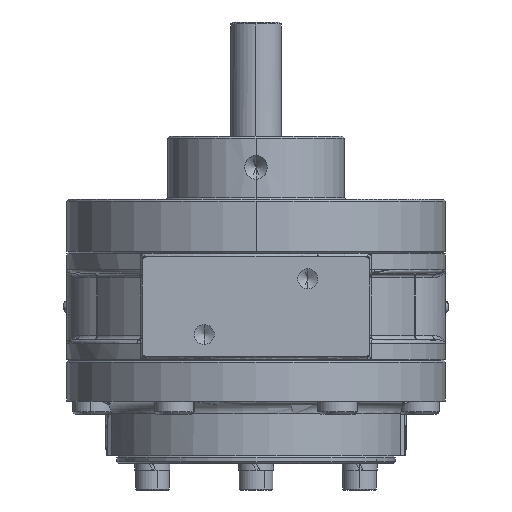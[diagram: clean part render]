
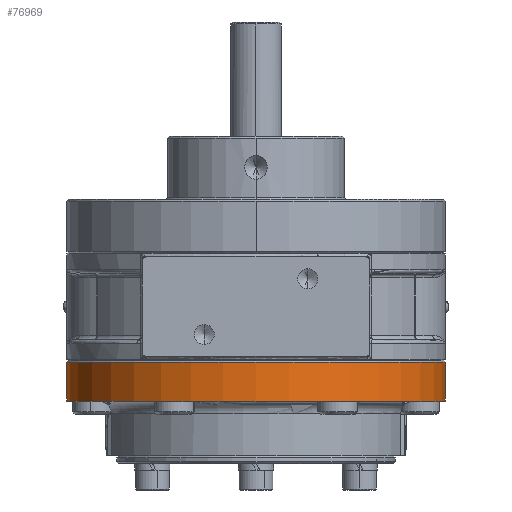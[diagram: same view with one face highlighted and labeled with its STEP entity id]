
A CAD part, front view. The second image highlights one B-rep face of the part: STEP entity #76969.
In plain terms, the highlighted cylindrical face has radius 47.5 mm (diameter 95 mm), a partial arc.
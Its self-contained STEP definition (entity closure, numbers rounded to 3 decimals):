
#5019 = CIRCLE ( 'NONE', #63239, 47.5 ) ;
#6207 = CARTESIAN_POINT ( 'NONE',  ( 47.5, 0., -37.406 ) ) ;
#7823 = EDGE_LOOP ( 'NONE', ( #31017, #41367, #77429, #85804 ) ) ;
#9371 = DIRECTION ( 'NONE',  ( 0., 0., -1. ) ) ;
#13593 = AXIS2_PLACEMENT_3D ( 'NONE', #87724, #62127, #69273 ) ;
#16354 = CARTESIAN_POINT ( 'NONE',  ( 47.5, 0., -13.905 ) ) ;
#17031 = EDGE_CURVE ( 'NONE', #44439, #28057, #33298, .T. ) ;
#19972 = DIRECTION ( 'NONE',  ( 0., 0., 1. ) ) ;
#21277 = CYLINDRICAL_SURFACE ( 'NONE', #13593, 47.5 ) ;
#22277 = DIRECTION ( 'NONE',  ( -1., 0., 0. ) ) ;
#24311 = VERTEX_POINT ( 'NONE', #81324 ) ;
#26750 = CARTESIAN_POINT ( 'NONE',  ( -47.5, 0., -37.406 ) ) ;
#28057 = VERTEX_POINT ( 'NONE', #16354 ) ;
#30499 = LINE ( 'NONE', #26750, #79640 ) ;
#31017 = ORIENTED_EDGE ( 'NONE', *, *, #87444, .F. ) ;
#32410 = DIRECTION ( 'NONE',  ( 0., 0., 1. ) ) ;
#33298 = LINE ( 'NONE', #6207, #68595 ) ;
#36510 = AXIS2_PLACEMENT_3D ( 'NONE', #49768, #9371, #22277 ) ;
#41367 = ORIENTED_EDGE ( 'NONE', *, *, #17031, .T. ) ;
#43806 = EDGE_CURVE ( 'NONE', #50947, #24311, #30499, .T. ) ;
#44439 = VERTEX_POINT ( 'NONE', #66764 ) ;
#49768 = CARTESIAN_POINT ( 'NONE',  ( 0., 0., -23.683 ) ) ;
#50947 = VERTEX_POINT ( 'NONE', #88611 ) ;
#55604 = CIRCLE ( 'NONE', #36510, 47.5 ) ;
#60691 = DIRECTION ( 'NONE',  ( 0., 0., -1. ) ) ;
#62127 = DIRECTION ( 'NONE',  ( 0., 0., 1. ) ) ;
#63239 = AXIS2_PLACEMENT_3D ( 'NONE', #67547, #60691, #80643 ) ;
#66764 = CARTESIAN_POINT ( 'NONE',  ( 47.5, 0., -23.683 ) ) ;
#67547 = CARTESIAN_POINT ( 'NONE',  ( 0., 0., -13.905 ) ) ;
#68595 = VECTOR ( 'NONE', #19972, 1000. ) ;
#69273 = DIRECTION ( 'NONE',  ( -1., 0., 0. ) ) ;
#72876 = EDGE_CURVE ( 'NONE', #28057, #24311, #5019, .T. ) ;
#73689 = FACE_OUTER_BOUND ( 'NONE', #7823, .T. ) ;
#76969 = ADVANCED_FACE ( 'NONE', ( #73689 ), #21277, .T. ) ;
#77429 = ORIENTED_EDGE ( 'NONE', *, *, #72876, .T. ) ;
#79640 = VECTOR ( 'NONE', #32410, 1000. ) ;
#80643 = DIRECTION ( 'NONE',  ( -1., 0., 0. ) ) ;
#81324 = CARTESIAN_POINT ( 'NONE',  ( -47.5, 0., -13.905 ) ) ;
#85804 = ORIENTED_EDGE ( 'NONE', *, *, #43806, .F. ) ;
#87444 = EDGE_CURVE ( 'NONE', #44439, #50947, #55604, .T. ) ;
#87724 = CARTESIAN_POINT ( 'NONE',  ( 0., 0., -37.406 ) ) ;
#88611 = CARTESIAN_POINT ( 'NONE',  ( -47.5, 0., -23.683 ) ) ;
